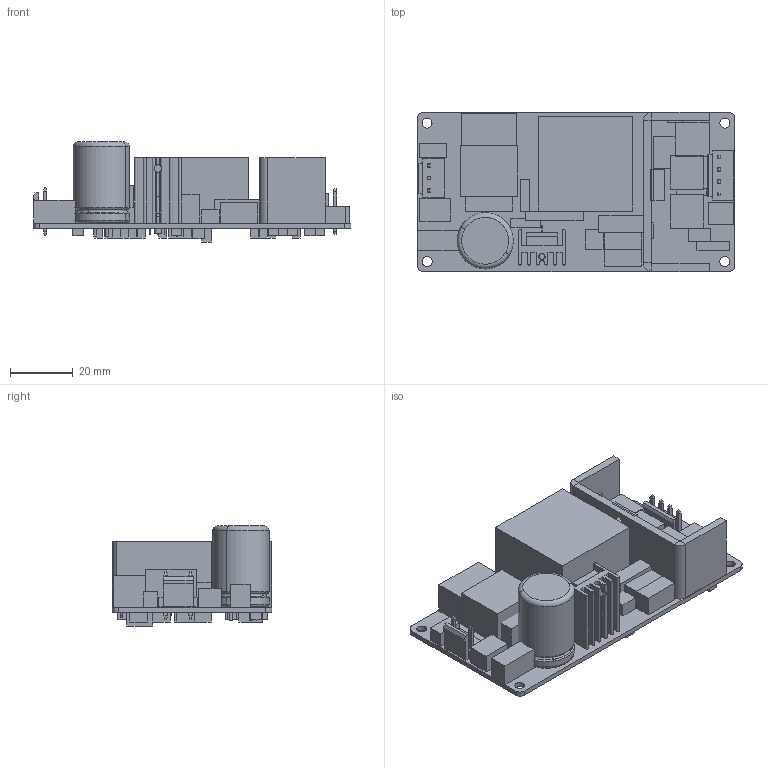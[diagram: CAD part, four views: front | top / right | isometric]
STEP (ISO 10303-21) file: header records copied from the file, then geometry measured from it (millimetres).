
FILE_DESCRIPTION((''),'2;1');
FILE_NAME('PS-35-12_ASM','2022-08-18T18:11:16',('pd070'),(''),'CREO PARAMETRIC BY PTC INC, 2017260','CREO PARAMETRIC BY PTC INC, 2017260','');
FILE_SCHEMA(('CONFIG_CONTROL_DESIGN','SHAPE_APPEARANCE_LAYERS_GROUPS'));
Length unit declared in the file: millimetre
Products named in the file (1): PS-35-12_ASM
Bounding box: 101.67 x 51 x 32.03 mm (x, y, z)
Surface area: 33005.1 mm2 (no closed solid volume)
Topology: 0 solids, 73 shells, 608 faces, 1652 edges, 1117 vertices
Faces by surface type: plane 538, cylinder 51, torus 10, cone 9
Entity records: 20809 total; most frequent: CARTESIAN_POINT 3512, DIRECTION 3001, ORIENTED_EDGE 2828, EDGE_CURVE 1652, VECTOR 1501, LINE 1501, VERTEX_POINT 1117, AXIS2_PLACEMENT_3D 750
